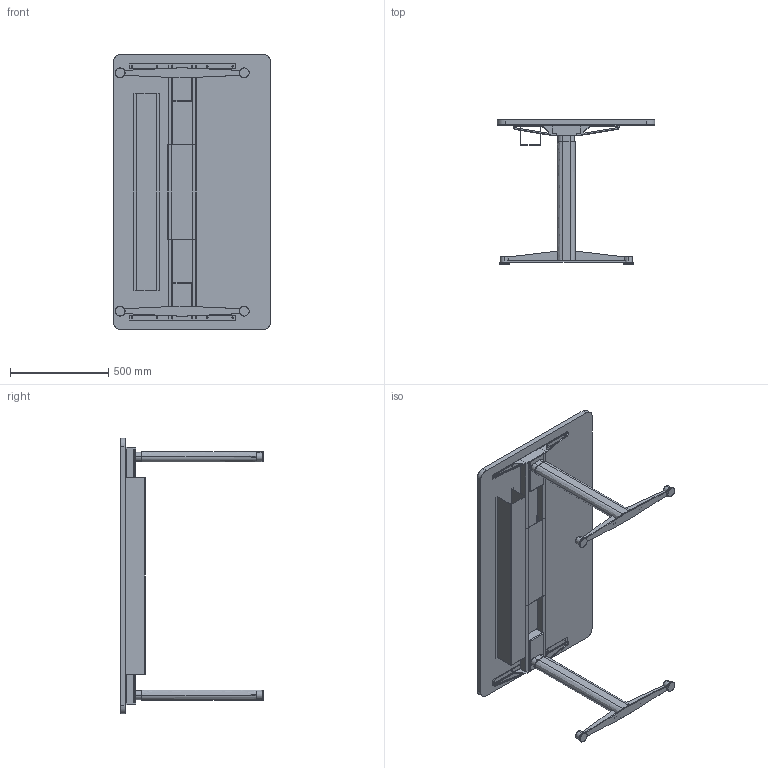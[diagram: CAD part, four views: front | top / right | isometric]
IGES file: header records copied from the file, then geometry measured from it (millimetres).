
Start section: SolidWorks IGES file using analytic representation for surfaces
Global section: file name: C:\Users\simone.cerana\OneDrive - Gruppo Tecno\Desktop\CHINA\DISEGNI DI SERIE\ASSIEMI LISTINO\AXIS LISTINO\FULL OPT\AX1408FO.IGS; native system: SolidWorks 2024; preprocessor: SolidWorks 2024; author: simone.cerana; date: 260512.104907; units: millimetre
Bounding box: 800 x 730.14 x 1400 mm (x, y, z)
Surface area: 4031376.8 mm2 (no closed solid volume)
Topology: 0 solids, 0 shells, 330 faces, 4480 edges, 4476 vertices
Faces by surface type: bspline 194, revolution 136
